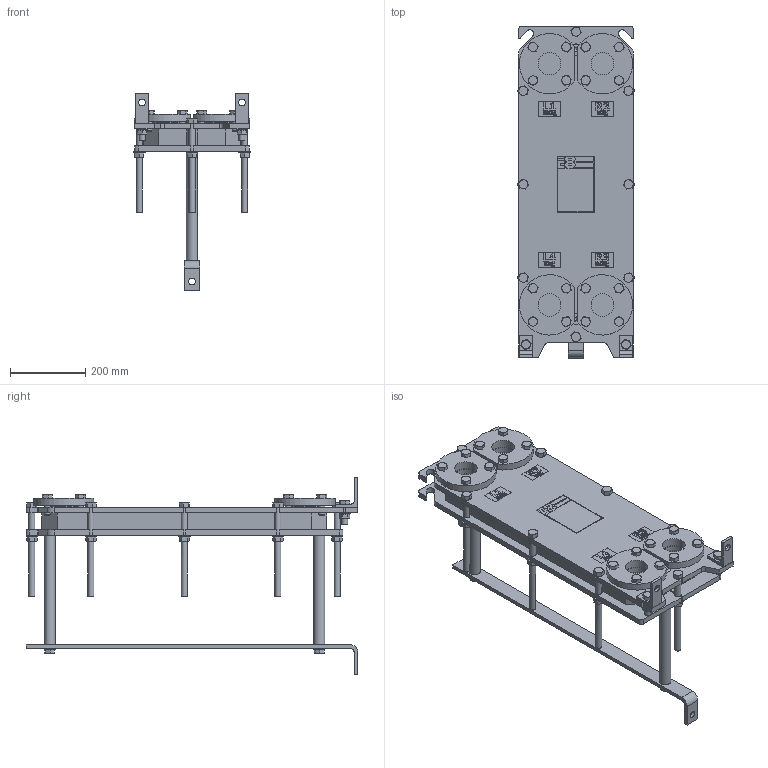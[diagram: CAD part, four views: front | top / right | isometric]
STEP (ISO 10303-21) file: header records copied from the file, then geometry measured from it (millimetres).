
FILE_DESCRIPTION (( 'STEP AP214' ), '1' );
FILE_NAME ('ÏÒ S50 ðåä7 10áàð ê ñèãìà 0...43.STEP', '2021-04-20T21:27:06', ( '' ), ( '' ), 'SwSTEP 2.0', 'SolidWorks 2018', '' );
FILE_SCHEMA (( 'AUTOMOTIVE_DESIGN' ));
Length unit declared in the file: millimetre
Products named in the file (3): ÏÒ S50 ðåä7 10áàð ê ñèãìà1; ÏÒ S50 ðåä7 10áàð ê ñèãìà2 0...43; ÏÒ S50 ðåä7 10áàð ê ñèãìà 0...43
Assembly tree (2 placements, depth 2):
  ÏÒ S50 ðåä7 10áàð ê ñèãìà 0...43
    ÏÒ S50 ðåä7 10áàð ê ñèãìà2 0...43
    ÏÒ S50 ðåä7 10áàð ê ñèãìà1
Bounding box: 308.99 x 880 x 525 mm (x, y, z)
Volume: 18294367.2 mm3; surface area: 2142827.8 mm2
Topology: 30 solids, 36 shells, 1958 faces, 4775 edges, 3044 vertices
Faces by surface type: plane 1034, cone 416, bspline 275, cylinder 211, torus 22
Full cylindrical faces by diameter (mm): 16 x62, 17 x12, 18 x23, 29.48 x2, 30 x16, 60 x12, 60.01 x4, 101 x4
Entity records: 86216 total; most frequent: CARTESIAN_POINT 22848, ORIENTED_EDGE 8920, DIRECTION 7488, EDGE_CURVE 4460, VERTEX_POINT 2966, AXIS2_PLACEMENT_3D 2562, EDGE_LOOP 2444, LINE 2364
